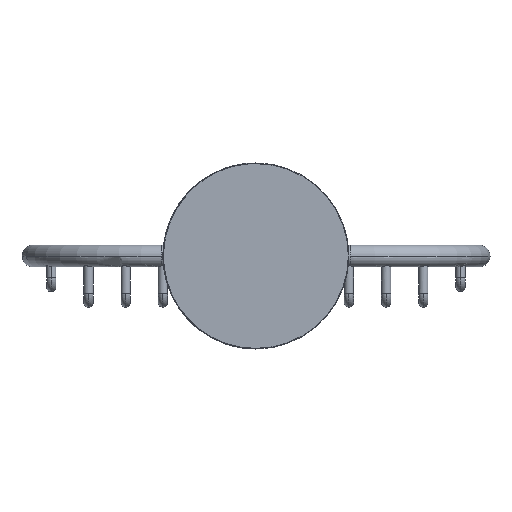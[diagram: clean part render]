
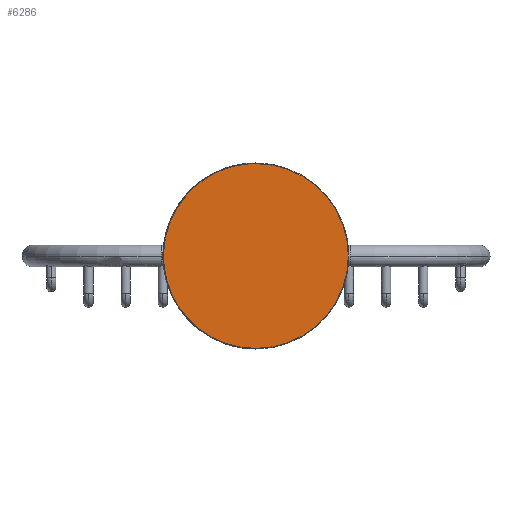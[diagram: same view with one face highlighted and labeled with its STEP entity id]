
A CAD part, front view. The second image highlights one B-rep face of the part: STEP entity #6286.
In plain terms, the highlighted planar face has unit normal (0, -1, 0).
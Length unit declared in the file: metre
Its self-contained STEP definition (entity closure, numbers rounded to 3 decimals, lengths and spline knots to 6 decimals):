
#62=EDGE_CURVE('',#63,#65,#67,.F.);
#63=VERTEX_POINT('',#64);
#64=CARTESIAN_POINT('',(0.0,-0.014,-0.0298));
#65=VERTEX_POINT('',#66);
#66=CARTESIAN_POINT('',(0.0,-0.014,0.0298));
#67=CIRCLE('',#68,0.0298);
#68=AXIS2_PLACEMENT_3D('',#69,#70,#71);
#69=CARTESIAN_POINT('',(0.0,-0.014,0.0));
#70=DIRECTION('',(0.0,1.0,0.0));
#71=DIRECTION('',(0.0,0.0,1.0));
#6286=ADVANCED_FACE('',(#6292),#6287,.F.);
#6287=PLANE('',#6288);
#6288=AXIS2_PLACEMENT_3D('',#6289,#6290,#6291);
#6289=CARTESIAN_POINT('',(0.0,-0.014,0.03));
#6290=DIRECTION('',(0.0,1.0,0.0));
#6291=DIRECTION('',(0.0,0.0,1.0));
#6292=FACE_OUTER_BOUND('',#6293,.T.);
#6293=EDGE_LOOP('',(#6294,#6302));
#6294=ORIENTED_EDGE('',*,*,#6296,.T.);
#6295=CARTESIAN_POINT('',(0.0,-0.014,-0.0298));
#6296=EDGE_CURVE('',#65,#63,#6297,.F.);
#6297=(B_SPLINE_CURVE(3,(#6295,#6298,#6299,#6300),.UNSPECIFIED.,.F.,.U.)B_SPLINE_CURVE_WITH_KNOTS(
  (4,4),(0.0,1.0),.UNSPECIFIED.)BOUNDED_CURVE()CURVE()GEOMETRIC_REPRESENTATION_ITEM(
  )RATIONAL_B_SPLINE_CURVE((1.0,0.333,0.333,1.0)
  )REPRESENTATION_ITEM(''));
#6298=CARTESIAN_POINT('',(-0.0596,-0.014,-0.0298));
#6299=CARTESIAN_POINT('',(-0.0596,-0.014,0.0298));
#6300=CARTESIAN_POINT('',(0.0,-0.014,0.0298));
#6302=ORIENTED_EDGE('',*,*,#62,.T.);
